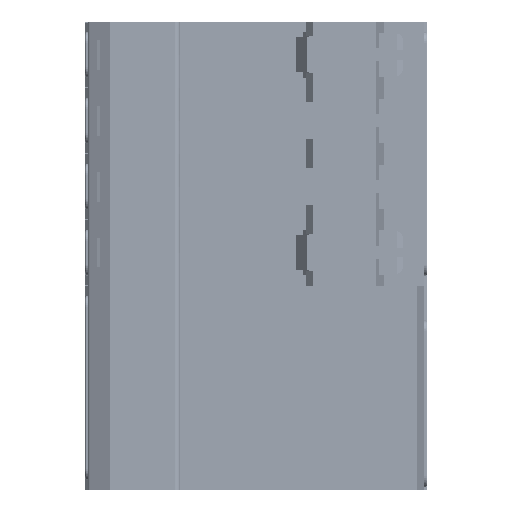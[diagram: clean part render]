
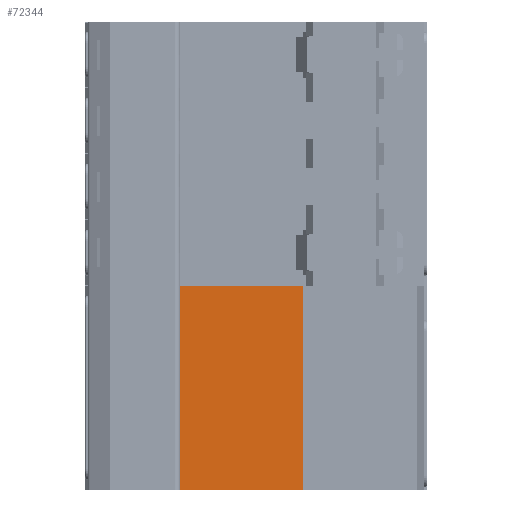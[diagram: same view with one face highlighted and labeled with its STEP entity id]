
A CAD part, front view. The second image highlights one B-rep face of the part: STEP entity #72344.
In plain terms, the highlighted planar face has unit normal (0, -1, 0).
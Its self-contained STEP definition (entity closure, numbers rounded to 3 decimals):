
#54072 = LINE ( 'NONE', #54188, #54186 ) ;
#54138 = CARTESIAN_POINT ( 'NONE',  ( 58.2, -30.5, 55.2 ) ) ;
#54140 = DIRECTION ( 'NONE',  ( 0., 0., -1. ) ) ;
#54141 = VECTOR ( 'NONE', #54140, 1000. ) ;
#54144 = CARTESIAN_POINT ( 'NONE',  ( 58.2, -30.5, 55.2 ) ) ;
#54145 = LINE ( 'NONE', #54144, #54141 ) ;
#54149 = CARTESIAN_POINT ( 'NONE',  ( 58.2, -30.5, 0. ) ) ;
#54151 = DIRECTION ( 'NONE',  ( 1., 0., 0. ) ) ;
#54153 = VECTOR ( 'NONE', #54151, 1000. ) ;
#54155 = CARTESIAN_POINT ( 'NONE',  ( 58.2, -30.5, 0. ) ) ;
#54157 = LINE ( 'NONE', #54155, #54153 ) ;
#54159 = DIRECTION ( 'NONE',  ( -1., 0., 0. ) ) ;
#54161 = DIRECTION ( 'NONE',  ( 0., 1., 0. ) ) ;
#54165 = CARTESIAN_POINT ( 'NONE',  ( 58.2, -30.5, 55.2 ) ) ;
#54167 = AXIS2_PLACEMENT_3D ( 'NONE', #54165, #54161, #54159 ) ;
#54170 = PLANE ( 'NONE',  #54167 ) ;
#54172 = FACE_OUTER_BOUND ( 'NONE', #72345, .T. ) ;
#54184 = CARTESIAN_POINT ( 'NONE',  ( 22.5, -30.5, 55.2 ) ) ;
#54185 = DIRECTION ( 'NONE',  ( 0., 0., -1. ) ) ;
#54186 = VECTOR ( 'NONE', #54185, 1000. ) ;
#54188 = CARTESIAN_POINT ( 'NONE',  ( 22.5, -30.5, 55.2 ) ) ;
#54223 = CARTESIAN_POINT ( 'NONE',  ( 22.5, -30.5, 0. ) ) ;
#54329 = DIRECTION ( 'NONE',  ( 1., 0., 0. ) ) ;
#54330 = VECTOR ( 'NONE', #54329, 1000. ) ;
#54331 = CARTESIAN_POINT ( 'NONE',  ( 58.2, -30.5, 55.2 ) ) ;
#54332 = LINE ( 'NONE', #54331, #54330 ) ;
#72339 = EDGE_CURVE ( 'NONE', #72340, #72365, #54072, .T. ) ;
#72340 = VERTEX_POINT ( 'NONE', #54184 ) ;
#72344 = ADVANCED_FACE ( 'NONE', ( #54172 ), #54170, .F. ) ;
#72345 = EDGE_LOOP ( 'NONE', ( #72346, #72349, #72352, #72407 ) ) ;
#72346 = ORIENTED_EDGE ( 'NONE', *, *, #72347, .T. ) ;
#72347 = EDGE_CURVE ( 'NONE', #72365, #72348, #54157, .T. ) ;
#72348 = VERTEX_POINT ( 'NONE', #54149 ) ;
#72349 = ORIENTED_EDGE ( 'NONE', *, *, #72350, .F. ) ;
#72350 = EDGE_CURVE ( 'NONE', #72351, #72348, #54145, .T. ) ;
#72351 = VERTEX_POINT ( 'NONE', #54138 ) ;
#72352 = ORIENTED_EDGE ( 'NONE', *, *, #72406, .F. ) ;
#72365 = VERTEX_POINT ( 'NONE', #54223 ) ;
#72406 = EDGE_CURVE ( 'NONE', #72340, #72351, #54332, .T. ) ;
#72407 = ORIENTED_EDGE ( 'NONE', *, *, #72339, .T. ) ;
